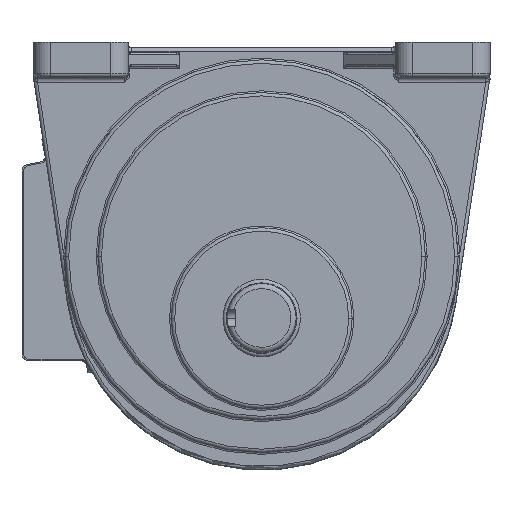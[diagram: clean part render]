
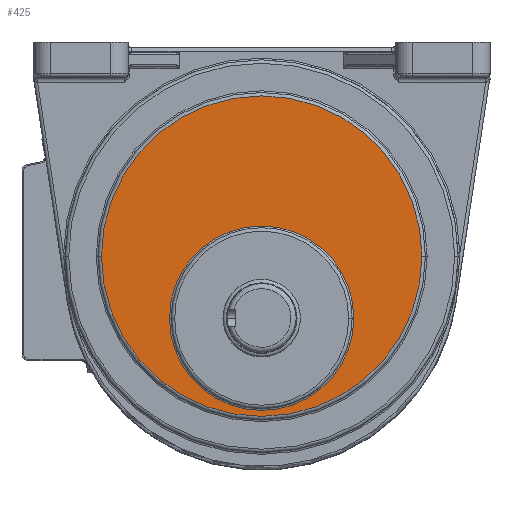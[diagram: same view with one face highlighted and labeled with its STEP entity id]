
A CAD part, top view. The second image highlights one B-rep face of the part: STEP entity #425.
In plain terms, the highlighted planar face has unit normal (0, 0, 1).
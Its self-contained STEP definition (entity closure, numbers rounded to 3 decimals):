
#361=CARTESIAN_POINT('',(-53.5,-55.,163.5));
#362=VERTEX_POINT('',#361);
#371=CARTESIAN_POINT('',(53.5,-55.,163.5));
#372=VERTEX_POINT('',#371);
#380=CARTESIAN_POINT('',(-0.,-55.,163.5));
#381=DIRECTION('',(0.,0.,1.));
#382=DIRECTION('',(1.,0.,-0.));
#383=AXIS2_PLACEMENT_3D('',#380,#381,#382);
#384=CIRCLE('',#383,53.5);
#385=EDGE_CURVE('',#372,#362,#384,.T.);
#390=CARTESIAN_POINT('',(-0.,-19.,163.5));
#391=DIRECTION('',(0.,0.,1.));
#392=DIRECTION('',(-1.,0.,0.));
#393=AXIS2_PLACEMENT_3D('',#390,#391,#392);
#394=PLANE('',#393);
#395=CARTESIAN_POINT('',(-93.,-19.,163.5));
#396=VERTEX_POINT('',#395);
#397=CARTESIAN_POINT('',(93.,-19.,163.5));
#398=VERTEX_POINT('',#397);
#399=CARTESIAN_POINT('',(-0.,-19.,163.5));
#400=DIRECTION('',(0.,0.,1.));
#401=DIRECTION('',(-1.,0.,0.));
#402=AXIS2_PLACEMENT_3D('',#399,#400,#401);
#403=CIRCLE('',#402,93.);
#404=EDGE_CURVE('',#396,#398,#403,.T.);
#405=ORIENTED_EDGE('',*,*,#404,.T.);
#406=CARTESIAN_POINT('',(-0.,-19.,163.5));
#407=DIRECTION('',(0.,0.,1.));
#408=DIRECTION('',(1.,0.,-0.));
#409=AXIS2_PLACEMENT_3D('',#406,#407,#408);
#410=CIRCLE('',#409,93.);
#411=EDGE_CURVE('',#398,#396,#410,.T.);
#412=ORIENTED_EDGE('',*,*,#411,.T.);
#413=EDGE_LOOP('',(#405,#412));
#414=FACE_BOUND('',#413,.T.);
#415=CARTESIAN_POINT('',(-0.,-55.,163.5));
#416=DIRECTION('',(0.,0.,1.));
#417=DIRECTION('',(-1.,0.,0.));
#418=AXIS2_PLACEMENT_3D('',#415,#416,#417);
#419=CIRCLE('',#418,53.5);
#420=EDGE_CURVE('',#362,#372,#419,.T.);
#421=ORIENTED_EDGE('',*,*,#420,.F.);
#422=ORIENTED_EDGE('',*,*,#385,.F.);
#423=EDGE_LOOP('',(#421,#422));
#424=FACE_BOUND('',#423,.T.);
#425=ADVANCED_FACE('',(#414,#424),#394,.T.);
